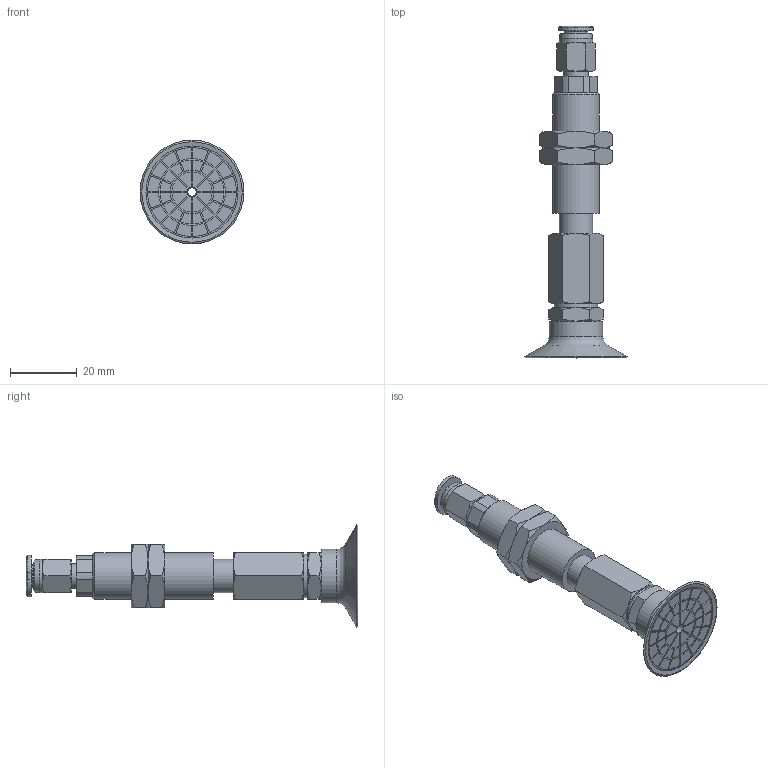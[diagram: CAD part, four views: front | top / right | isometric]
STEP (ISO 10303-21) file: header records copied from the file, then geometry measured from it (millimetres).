
FILE_DESCRIPTION(('STEP AP203'),'1');
FILE_NAME('-O.stp','2025-08-26T09:06:57',(' '),(' '),'Spatial InterOp 3D',' ',' ');
FILE_SCHEMA(('CONFIG_CONTROL_DESIGN'));
Length unit declared in the file: millimetre
Products named in the file (8): BNABPATS-30B-6-※-O; ADAPTER; NAPATS-30B-6--M; NAPATS-30B-6--F; Nut-25-S; TN-PA-30B-M6; BPAG-30B-※_3D; PC-C_06-M5
Assembly tree (8 placements, depth 2):
  BNABPATS-30B-6-※-O
    ADAPTER
    NAPATS-30B-6--M
    NAPATS-30B-6--F
    Nut-25-S  x2
    TN-PA-30B-M6
    BPAG-30B-※_3D
    PC-C_06-M5
Bounding box: 31.04 x 99.18 x 31.04 mm (x, y, z)
Volume: 15335.7 mm3; surface area: 12817.7 mm2
Topology: 7 solids, 10 shells, 399 faces, 914 edges, 581 vertices
Faces by surface type: plane 202, cylinder 106, cone 76, torus 8, bspline 4, revolution 3
Full cylindrical faces by diameter (mm): 2.5 x1, 3 x3, 4 x2, 4.134 x1, 4.917 x1, 5 x1, 6 x3, 7 x1, 7.4 x1, 8.2 x1, 10 x5, 12.917 x2, 13 x1, 14 x1, 16 x1, 27.5 x1
Entity records: 11197 total; most frequent: CARTESIAN_POINT 2470, DIRECTION 1764, ORIENTED_EDGE 1612, EDGE_CURVE 808, AXIS2_PLACEMENT_3D 678, VERTEX_POINT 544, EDGE_LOOP 486, LINE 405
